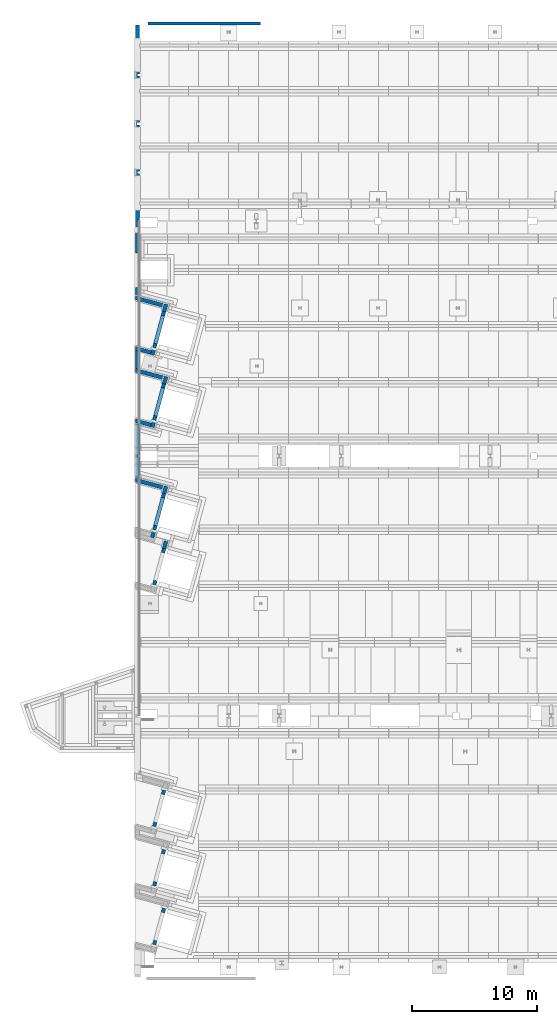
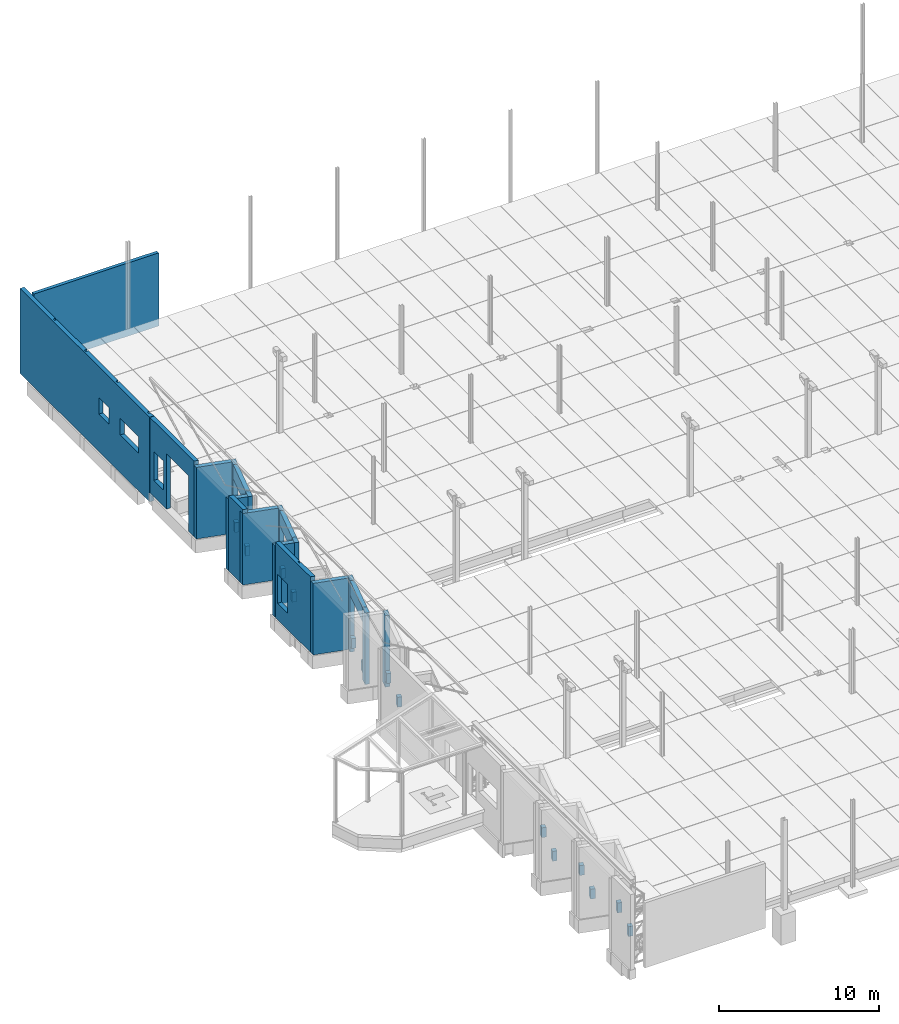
# One storey, part 55 of 59: 34 walls, 10 openings.
"""IFC2X3 building model written with IfcOpenShell, lengths in metres."""

from ifc_helpers import new_model, entity, si_unit, converted_unit, derived_unit, frame, frame_2d, origin, origin_with_axes, place, context, subcontext, project, spatial, polyline, rectangle, outline, extrude, clip, bounded_halfspace, material, layer, layer_set, layer_usage, element, save


model = new_model("IFC2X3")

# Units and contexts
model_context = context("Model", 3, precision=1e-05, world=origin())
body_context = subcontext(model_context, "Body", "Model", "MODEL_VIEW")
ifc_project = project(units=[si_unit("LENGTHUNIT", "METRE"), si_unit("AREAUNIT", "SQUARE_METRE"), si_unit("VOLUMEUNIT", "CUBIC_METRE"), si_unit("MASSUNIT", "GRAM", prefix="KILO"), converted_unit("PLANEANGLEUNIT", "DEGREE", entity("IfcPlaneAngleMeasure", 0.0174532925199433), si_unit("PLANEANGLEUNIT", "RADIAN"), dimensions=[0, 0, 0, 0, 0, 0, 0]), derived_unit("THERMALTRANSMITTANCEUNIT", [(si_unit("POWERUNIT", "WATT"), 1), (si_unit("THERMODYNAMICTEMPERATUREUNIT", "KELVIN"), -1), (si_unit("LENGTHUNIT", "METRE"), -2)]), derived_unit("VOLUMETRICFLOWRATEUNIT", [(si_unit("LENGTHUNIT", "METRE"), 3), (converted_unit("TIMEUNIT", "hour", entity("IfcTimeMeasure", 3600.0), si_unit("TIMEUNIT", "SECOND"), dimensions=[0, 0, 1, 0, 0, 0, 0]), -1), (si_unit("LENGTHUNIT", "METRE"), -1)])], contexts=[model_context])

# Site, building, storey
site_placement = place(None, origin())
site = spatial("IfcSite", under=ifc_project, at=site_placement, Name="TWP_Speiseverteilzentrum SBW VZ II", CompositionType="ELEMENT")
building_placement = place(site_placement, origin())
building = spatial("IfcBuilding", under=site, at=building_placement, Name="Speiseverteilzentrum SBW VZ II", CompositionType="ELEMENT")
storey_placement = place(building_placement, frame((0.0, 0.0, 1.7307)))
storey = spatial("IfcBuildingStorey", under=building, at=storey_placement, Name="EG_Produktion_FFB", CompositionType="ELEMENT", Elevation=1.7307)

# Walls
ifc_material_1 = material(Name="Stahlbeton")
ifc_layer_1 = layer(ifc_material_1, 0.299999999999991)
ifc_layer_set_1 = layer_set([ifc_layer_1], Name="HA_WAN_STB_0,300_xxx")
ifc_layer_usage_1 = layer_usage(ifc_layer_set_1, "AXIS2", "POSITIVE", 0.0)
wall_1_placement = place(storey_placement, frame((10.7877086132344, 12.8543333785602, -0.75), z_axis=(0.0, 0.0, 1.0), x_axis=(-0.261013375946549, -0.965335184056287, 0.0)))
element("IfcWallStandardCase", 1, at=wall_1_placement, inside=storey, material=ifc_layer_usage_1, Name="Stb.-Rahmen", context=body_context, shape_type="SweptSolid", body=[
    extrude(rectangle(XDim=0.340000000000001, YDim=0.299999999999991, at=frame_2d((0.170000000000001, 0.149999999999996), x_axis=(1.0, 0.0))), origin_with_axes(), (0.0, 0.0, 1.0), 0.75),
])
ifc_material_2 = material(Name="Stahlbeton")
ifc_layer_2 = layer(ifc_material_2, 0.299999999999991)
ifc_layer_set_2 = layer_set([ifc_layer_2], Name="HA_WAN_STB_0,300_xxx")
ifc_layer_usage_2 = layer_usage(ifc_layer_set_2, "AXIS2", "POSITIVE", 0.0)
wall_2_placement = place(storey_placement, frame((11.4818206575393, 15.4214461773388, -0.75), z_axis=(0.0, 0.0, 1.0), x_axis=(-0.261013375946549, -0.965335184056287, 0.0)))
element("IfcWallStandardCase", 2, at=wall_2_placement, inside=storey, material=ifc_layer_usage_2, Name="Stb.-Rahmen", context=body_context, shape_type="SweptSolid", body=[
    extrude(rectangle(XDim=0.340000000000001, YDim=0.299999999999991, at=frame_2d((0.170000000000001, 0.149999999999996), x_axis=(1.0, 0.0))), origin_with_axes(), (0.0, 0.0, 1.0), 0.75),
])
ifc_material_3 = material(Name="Stahlbeton")
ifc_layer_3 = layer(ifc_material_3, 0.299999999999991)
ifc_layer_set_3 = layer_set([ifc_layer_3], Name="HA_WAN_STB_0,300_xxx")
ifc_layer_usage_3 = layer_usage(ifc_layer_set_3, "AXIS2", "POSITIVE", 0.0)
wall_3_placement = place(storey_placement, frame((10.7877086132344, 17.5568974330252, -0.75), z_axis=(0.0, 0.0, 1.0), x_axis=(-0.261013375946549, -0.965335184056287, 0.0)))
element("IfcWallStandardCase", 3, at=wall_3_placement, inside=storey, material=ifc_layer_usage_3, Name="Stb.-Rahmen", context=body_context, shape_type="SweptSolid", body=[
    extrude(rectangle(XDim=0.340000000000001, YDim=0.299999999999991, at=frame_2d((0.170000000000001, 0.149999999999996), x_axis=(1.0, 0.0))), origin_with_axes(), (0.0, 0.0, 1.0), 0.75),
])
ifc_material_4 = material(Name="Stahlbeton")
ifc_layer_4 = layer(ifc_material_4, 0.299999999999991)
ifc_layer_set_4 = layer_set([ifc_layer_4], Name="HA_WAN_STB_0,300_xxx")
ifc_layer_usage_4 = layer_usage(ifc_layer_set_4, "AXIS2", "POSITIVE", 0.0)
wall_4_placement = place(storey_placement, frame((11.4818206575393, 20.1240102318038, -0.75), z_axis=(0.0, 0.0, 1.0), x_axis=(-0.261013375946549, -0.965335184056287, 0.0)))
element("IfcWallStandardCase", 4, at=wall_4_placement, inside=storey, material=ifc_layer_usage_4, Name="Stb.-Rahmen", context=body_context, shape_type="SweptSolid", body=[
    extrude(rectangle(XDim=0.340000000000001, YDim=0.299999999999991, at=frame_2d((0.170000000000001, 0.149999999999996), x_axis=(1.0, 0.0))), origin_with_axes(), (0.0, 0.0, 1.0), 0.75),
])
ifc_material_5 = material(Name="Stahlbeton")
ifc_layer_5 = layer(ifc_material_5, 0.299999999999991)
ifc_layer_set_5 = layer_set([ifc_layer_5], Name="HA_WAN_STB_0,300_xxx")
ifc_layer_usage_5 = layer_usage(ifc_layer_set_5, "AXIS2", "POSITIVE", 0.0)
wall_5_placement = place(storey_placement, frame((10.7877086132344, 22.3084320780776, -0.75), z_axis=(0.0, 0.0, 1.0), x_axis=(-0.261013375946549, -0.965335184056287, 0.0)))
element("IfcWallStandardCase", 5, at=wall_5_placement, inside=storey, material=ifc_layer_usage_5, Name="Stb.-Rahmen", context=body_context, shape_type="SweptSolid", body=[
    extrude(rectangle(XDim=0.340000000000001, YDim=0.299999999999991, at=frame_2d((0.170000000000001, 0.149999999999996), x_axis=(1.0, 0.0))), origin_with_axes(), (0.0, 0.0, 1.0), 0.75),
])
ifc_material_6 = material(Name="Stahlbeton")
ifc_layer_6 = layer(ifc_material_6, 0.299999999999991)
ifc_layer_set_6 = layer_set([ifc_layer_6], Name="HA_WAN_STB_0,300_xxx")
ifc_layer_usage_6 = layer_usage(ifc_layer_set_6, "AXIS2", "POSITIVE", 0.0)
wall_6_placement = place(storey_placement, frame((11.4818206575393, 24.8755448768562, -0.75), z_axis=(0.0, 0.0, 1.0), x_axis=(-0.261013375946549, -0.965335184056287, 0.0)))
element("IfcWallStandardCase", 6, at=wall_6_placement, inside=storey, material=ifc_layer_usage_6, Name="Stb.-Rahmen", context=body_context, shape_type="SweptSolid", body=[
    extrude(rectangle(XDim=0.340000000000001, YDim=0.299999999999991, at=frame_2d((0.170000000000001, 0.149999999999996), x_axis=(1.0, 0.0))), origin_with_axes(), (0.0, 0.0, 1.0), 0.75),
])
ifc_material_7 = material(Name="Stahlbeton")
ifc_layer_7 = layer(ifc_material_7, 0.299999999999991)
ifc_layer_set_7 = layer_set([ifc_layer_7], Name="HA_WAN_STB_0,300_xxx")
ifc_layer_usage_7 = layer_usage(ifc_layer_set_7, "AXIS2", "POSITIVE", 0.0)
wall_7_placement = place(storey_placement, frame((10.7877086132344, 41.6657514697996, -0.75), z_axis=(0.0, 0.0, 1.0), x_axis=(-0.261013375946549, -0.965335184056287, 0.0)))
element("IfcWallStandardCase", 7, at=wall_7_placement, inside=storey, material=ifc_layer_usage_7, Name="Stb.-Rahmen", context=body_context, shape_type="SweptSolid", body=[
    extrude(rectangle(XDim=0.340000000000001, YDim=0.299999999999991, at=frame_2d((0.170000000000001, 0.149999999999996), x_axis=(1.0, 0.0))), origin_with_axes(), (0.0, 0.0, 1.0), 0.75),
])
ifc_material_8 = material(Name="Stahlbeton")
ifc_layer_8 = layer(ifc_material_8, 0.299999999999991)
ifc_layer_set_8 = layer_set([ifc_layer_8], Name="HA_WAN_STB_0,300_xxx")
ifc_layer_usage_8 = layer_usage(ifc_layer_set_8, "AXIS2", "POSITIVE", 0.0)
wall_8_placement = place(storey_placement, frame((11.4818206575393, 44.2328642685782, -0.75), z_axis=(0.0, 0.0, 1.0), x_axis=(-0.261013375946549, -0.965335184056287, 0.0)))
element("IfcWallStandardCase", 8, at=wall_8_placement, inside=storey, material=ifc_layer_usage_8, Name="Stb.-Rahmen", context=body_context, shape_type="SweptSolid", body=[
    extrude(rectangle(XDim=0.340000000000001, YDim=0.299999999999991, at=frame_2d((0.170000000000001, 0.149999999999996), x_axis=(1.0, 0.0))), origin_with_axes(), (0.0, 0.0, 1.0), 0.75),
])
ifc_material_9 = material(Name="Stahlbeton")
ifc_layer_9 = layer(ifc_material_9, 0.299999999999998)
ifc_layer_set_9 = layer_set([ifc_layer_9], Name="HA_WAN_STB_0,300_xxx")
ifc_layer_usage_9 = layer_usage(ifc_layer_set_9, "AXIS2", "POSITIVE", 0.0)
wall_9_placement = place(storey_placement, frame((11.6384286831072, 44.8120653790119, -1.25), z_axis=(0.0, 0.0, 1.0), x_axis=(-0.261013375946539, -0.96533518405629, 0.0)))
element("IfcWallStandardCase", 9, at=wall_9_placement, inside=storey, material=ifc_layer_usage_9, Name="Stb.-Rahmen", context=body_context, shape_type="SweptSolid", body=[
    extrude(rectangle(XDim=0.599999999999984, YDim=0.299999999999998, at=frame_2d((0.299999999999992, 0.149999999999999), x_axis=(1.0, 0.0))), origin_with_axes(), (0.0, 0.0, 1.0), 5.45),
])
ifc_material_10 = material(Name="Stahlbeton")
ifc_layer_10 = layer(ifc_material_10, 0.299999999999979)
ifc_layer_set_10 = layer_set([ifc_layer_10], Name="HA_WAN_STB_0,300_xxx")
ifc_layer_usage_10 = layer_usage(ifc_layer_set_10, "AXIS2", "POSITIVE", 0.0)
wall_10_placement = place(storey_placement, frame((10.6989640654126, 45.7378369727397, -1.25), z_axis=(0.0, 0.0, 1.0), x_axis=(-0.261013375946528, -0.965335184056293, 0.0)))
element("IfcWallStandardCase", 10, at=wall_10_placement, inside=storey, material=ifc_layer_usage_10, Name="Stb.-Rahmen", context=body_context, shape_type="SweptSolid", body=[
    extrude(rectangle(XDim=0.648467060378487, YDim=0.299999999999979, at=frame_2d((0.324233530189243, 0.149999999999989), x_axis=(1.0, 0.0))), origin_with_axes(), (0.0, 0.0, 1.0), 5.45),
])
ifc_material_11 = material(Name="Stahlbeton")
ifc_layer_11 = layer(ifc_material_11, 0.299999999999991)
ifc_layer_set_11 = layer_set([ifc_layer_11], Name="HA_WAN_STB_0,300_xxx")
ifc_layer_usage_11 = layer_usage(ifc_layer_set_11, "AXIS2", "POSITIVE", 0.0)
wall_11_placement = place(storey_placement, frame((10.7877086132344, 46.0660509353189, -0.75), z_axis=(0.0, 0.0, 1.0), x_axis=(-0.261013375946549, -0.965335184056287, 0.0)))
element("IfcWallStandardCase", 11, at=wall_11_placement, inside=storey, material=ifc_layer_usage_11, Name="Stb.-Rahmen", context=body_context, shape_type="SweptSolid", body=[
    extrude(rectangle(XDim=0.340000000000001, YDim=0.299999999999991, at=frame_2d((0.170000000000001, 0.149999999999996), x_axis=(1.0, 0.0))), origin_with_axes(), (0.0, 0.0, 1.0), 0.75),
])
ifc_material_12 = material(Name="Stahlbeton")
ifc_layer_12 = layer(ifc_material_12, 0.299999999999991)
ifc_layer_set_12 = layer_set([ifc_layer_12], Name="HA_WAN_STB_0,300_xxx")
ifc_layer_usage_12 = layer_usage(ifc_layer_set_12, "AXIS2", "POSITIVE", 0.0)
wall_12_placement = place(storey_placement, frame((11.4818206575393, 48.6331637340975, 3.12), z_axis=(0.0, 0.0, 1.0), x_axis=(-0.261013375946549, -0.965335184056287, 0.0)))
element("IfcWallStandardCase", 12, at=wall_12_placement, inside=storey, material=ifc_layer_usage_12, Name="Stb.-Rahmen", context=body_context, shape_type="SweptSolid", body=[
    extrude(rectangle(XDim=2.99929683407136, YDim=0.299999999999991, at=frame_2d((1.49964841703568, 0.149999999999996), x_axis=(1.0, 0.0))), origin_with_axes(), (0.0, 0.0, 1.0), 1.08),
])
ifc_material_13 = material(Name="Stahlbeton")
ifc_layer_13 = layer(ifc_material_13, 0.299999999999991)
ifc_layer_set_13 = layer_set([ifc_layer_13], Name="HA_WAN_STB_0,300_xxx")
ifc_layer_usage_13 = layer_usage(ifc_layer_set_13, "AXIS2", "POSITIVE", 0.0)
wall_13_placement = place(storey_placement, frame((11.4818206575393, 48.6331637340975, -0.75), z_axis=(0.0, 0.0, 1.0), x_axis=(-0.261013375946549, -0.965335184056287, 0.0)))
element("IfcWallStandardCase", 13, at=wall_13_placement, inside=storey, material=ifc_layer_usage_13, Name="Stb.-Rahmen", context=body_context, shape_type="SweptSolid", body=[
    extrude(rectangle(XDim=0.340000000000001, YDim=0.299999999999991, at=frame_2d((0.170000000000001, 0.149999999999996), x_axis=(1.0, 0.0))), origin_with_axes(), (0.0, 0.0, 1.0), 0.75),
])
ifc_material_14 = material(Name="Stahlbeton")
ifc_layer_14 = layer(ifc_material_14, 0.299999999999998)
ifc_layer_set_14 = layer_set([ifc_layer_14], Name="HA_WAN_STB_0,300_xxx")
ifc_layer_usage_14 = layer_usage(ifc_layer_set_14, "AXIS2", "POSITIVE", 0.0)
wall_14_placement = place(storey_placement, frame((11.6384286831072, 49.2123648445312, -1.25), z_axis=(0.0, 0.0, 1.0), x_axis=(-0.261013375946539, -0.96533518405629, 0.0)))
element("IfcWallStandardCase", 14, at=wall_14_placement, inside=storey, material=ifc_layer_usage_14, Name="Stb.-Rahmen", context=body_context, shape_type="SweptSolid", body=[
    extrude(rectangle(XDim=0.599999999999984, YDim=0.299999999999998, at=frame_2d((0.299999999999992, 0.149999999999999), x_axis=(1.0, 0.0))), origin_with_axes(), (0.0, 0.0, 1.0), 5.45),
])
ifc_material_15 = material(Name="Stahlbeton")
ifc_layer_15 = layer(ifc_material_15, 0.29999999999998)
ifc_layer_set_15 = layer_set([ifc_layer_15], Name="HA_WAN_STB_0,300_xxx")
ifc_layer_usage_15 = layer_usage(ifc_layer_set_15, "AXIS2", "POSITIVE", 0.0)
wall_15_placement = place(storey_placement, frame((10.6989640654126, 54.5213455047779, -1.25), z_axis=(0.0, 0.0, 1.0), x_axis=(-0.261013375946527, -0.965335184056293, 0.0)))
element("IfcWallStandardCase", 15, at=wall_15_placement, inside=storey, material=ifc_layer_usage_15, Name="Stb.-Rahmen", context=body_context, shape_type="SweptSolid", body=[
    extrude(rectangle(XDim=0.599999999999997, YDim=0.29999999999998, at=frame_2d((0.299999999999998, 0.14999999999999), x_axis=(1.0, 0.0))), origin_with_axes(), (0.0, 0.0, 1.0), 5.45),
])
ifc_material_16 = material(Name="Stahlbeton")
ifc_layer_16 = layer(ifc_material_16, 0.299999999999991)
ifc_layer_set_16 = layer_set([ifc_layer_16], Name="HA_WAN_STB_0,300_xxx")
ifc_layer_usage_16 = layer_usage(ifc_layer_set_16, "AXIS2", "POSITIVE", 0.0)
wall_16_placement = place(storey_placement, frame((10.7877086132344, 54.849559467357, -0.75), z_axis=(0.0, 0.0, 1.0), x_axis=(-0.261013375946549, -0.965335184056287, 0.0)))
element("IfcWallStandardCase", 16, at=wall_16_placement, inside=storey, material=ifc_layer_usage_16, Name="Stb.-Rahmen", context=body_context, shape_type="SweptSolid", body=[
    extrude(rectangle(XDim=0.340000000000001, YDim=0.299999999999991, at=frame_2d((0.170000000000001, 0.149999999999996), x_axis=(1.0, 0.0))), origin_with_axes(), (0.0, 0.0, 1.0), 0.75),
])
ifc_material_17 = material(Name="Stahlbeton")
ifc_layer_17 = layer(ifc_material_17, 0.299999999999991)
ifc_layer_set_17 = layer_set([ifc_layer_17], Name="HA_WAN_STB_0,300_xxx")
ifc_layer_usage_17 = layer_usage(ifc_layer_set_17, "AXIS2", "POSITIVE", 0.0)
wall_17_placement = place(storey_placement, frame((11.4818206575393, 57.4166722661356, 3.12), z_axis=(0.0, 0.0, 1.0), x_axis=(-0.261013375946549, -0.965335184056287, 0.0)))
element("IfcWallStandardCase", 17, at=wall_17_placement, inside=storey, material=ifc_layer_usage_17, Name="Stb.-Rahmen", context=body_context, shape_type="SweptSolid", body=[
    extrude(rectangle(XDim=2.99929683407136, YDim=0.299999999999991, at=frame_2d((1.49964841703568, 0.149999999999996), x_axis=(1.0, 0.0))), origin_with_axes(), (0.0, 0.0, 1.0), 1.08),
])
ifc_material_18 = material(Name="Stahlbeton")
ifc_layer_18 = layer(ifc_material_18, 0.299999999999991)
ifc_layer_set_18 = layer_set([ifc_layer_18], Name="HA_WAN_STB_0,300_xxx")
ifc_layer_usage_18 = layer_usage(ifc_layer_set_18, "AXIS2", "POSITIVE", 0.0)
wall_18_placement = place(storey_placement, frame((11.4818206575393, 57.4166722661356, -0.75), z_axis=(0.0, 0.0, 1.0), x_axis=(-0.261013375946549, -0.965335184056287, 0.0)))
element("IfcWallStandardCase", 18, at=wall_18_placement, inside=storey, material=ifc_layer_usage_18, Name="Stb.-Rahmen", context=body_context, shape_type="SweptSolid", body=[
    extrude(rectangle(XDim=0.340000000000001, YDim=0.299999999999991, at=frame_2d((0.170000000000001, 0.149999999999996), x_axis=(1.0, 0.0))), origin_with_axes(), (0.0, 0.0, 1.0), 0.75),
])
ifc_material_19 = material(Name="Stahlbeton")
ifc_layer_19 = layer(ifc_material_19, 0.299999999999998)
ifc_layer_set_19 = layer_set([ifc_layer_19], Name="HA_WAN_STB_0,300_xxx")
ifc_layer_usage_19 = layer_usage(ifc_layer_set_19, "AXIS2", "POSITIVE", 0.0)
wall_19_placement = place(storey_placement, frame((11.6384286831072, 57.9958733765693, -1.25), z_axis=(0.0, 0.0, 1.0), x_axis=(-0.261013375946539, -0.96533518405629, 0.0)))
element("IfcWallStandardCase", 19, at=wall_19_placement, inside=storey, material=ifc_layer_usage_19, Name="Stb.-Rahmen", context=body_context, shape_type="SweptSolid", body=[
    extrude(rectangle(XDim=0.599999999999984, YDim=0.299999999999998, at=frame_2d((0.299999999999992, 0.149999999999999), x_axis=(1.0, 0.0))), origin_with_axes(), (0.0, 0.0, 1.0), 5.45),
])
ifc_material_20 = material(Name="Stahlbeton")
ifc_layer_20 = layer(ifc_material_20, 0.29999999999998)
ifc_layer_set_20 = layer_set([ifc_layer_20], Name="HA_WAN_STB_0,300_xxx")
ifc_layer_usage_20 = layer_usage(ifc_layer_set_20, "AXIS2", "POSITIVE", 0.0)
wall_20_placement = place(storey_placement, frame((10.6989640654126, 60.3143324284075, -1.25), z_axis=(0.0, 0.0, 1.0), x_axis=(-0.261013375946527, -0.965335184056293, 0.0)))
element("IfcWallStandardCase", 20, at=wall_20_placement, inside=storey, material=ifc_layer_usage_20, Name="Stb.-Rahmen", context=body_context, shape_type="SweptSolid", body=[
    extrude(rectangle(XDim=0.599999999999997, YDim=0.29999999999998, at=frame_2d((0.299999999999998, 0.14999999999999), x_axis=(1.0, 0.0))), origin_with_axes(), (0.0, 0.0, 1.0), 5.45),
])
ifc_material_21 = material(Name="Stahlbeton")
ifc_layer_21 = layer(ifc_material_21, 0.299999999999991)
ifc_layer_set_21 = layer_set([ifc_layer_21], Name="HA_WAN_STB_0,300_xxx")
ifc_layer_usage_21 = layer_usage(ifc_layer_set_21, "AXIS2", "POSITIVE", 0.0)
wall_21_placement = place(storey_placement, frame((10.7877086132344, 60.6425463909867, -0.75), z_axis=(0.0, 0.0, 1.0), x_axis=(-0.261013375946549, -0.965335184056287, 0.0)))
element("IfcWallStandardCase", 21, at=wall_21_placement, inside=storey, material=ifc_layer_usage_21, Name="Stb.-Rahmen", context=body_context, shape_type="SweptSolid", body=[
    extrude(rectangle(XDim=0.340000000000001, YDim=0.299999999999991, at=frame_2d((0.170000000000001, 0.149999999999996), x_axis=(1.0, 0.0))), origin_with_axes(), (0.0, 0.0, 1.0), 0.75),
])
ifc_material_22 = material(Name="Stahlbeton")
ifc_layer_22 = layer(ifc_material_22, 0.299999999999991)
ifc_layer_set_22 = layer_set([ifc_layer_22], Name="HA_WAN_STB_0,300_xxx")
ifc_layer_usage_22 = layer_usage(ifc_layer_set_22, "AXIS2", "POSITIVE", 0.0)
wall_22_placement = place(storey_placement, frame((11.4818206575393, 63.2096591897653, 3.12), z_axis=(0.0, 0.0, 1.0), x_axis=(-0.261013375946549, -0.965335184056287, 0.0)))
element("IfcWallStandardCase", 22, at=wall_22_placement, inside=storey, material=ifc_layer_usage_22, Name="Stb.-Rahmen", context=body_context, shape_type="SweptSolid", body=[
    extrude(rectangle(XDim=2.99929683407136, YDim=0.299999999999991, at=frame_2d((1.49964841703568, 0.149999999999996), x_axis=(1.0, 0.0))), origin_with_axes(), (0.0, 0.0, 1.0), 1.08),
])
ifc_material_23 = material(Name="Stahlbeton")
ifc_layer_23 = layer(ifc_material_23, 0.299999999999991)
ifc_layer_set_23 = layer_set([ifc_layer_23], Name="HA_WAN_STB_0,300_xxx")
ifc_layer_usage_23 = layer_usage(ifc_layer_set_23, "AXIS2", "POSITIVE", 0.0)
wall_23_placement = place(storey_placement, frame((11.4818206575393, 63.2096591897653, -0.75), z_axis=(0.0, 0.0, 1.0), x_axis=(-0.261013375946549, -0.965335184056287, 0.0)))
element("IfcWallStandardCase", 23, at=wall_23_placement, inside=storey, material=ifc_layer_usage_23, Name="Stb.-Rahmen", context=body_context, shape_type="SweptSolid", body=[
    extrude(rectangle(XDim=0.340000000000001, YDim=0.299999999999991, at=frame_2d((0.170000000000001, 0.149999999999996), x_axis=(1.0, 0.0))), origin_with_axes(), (0.0, 0.0, 1.0), 0.75),
])
ifc_material_24 = material(Name="Stahlbeton")
ifc_layer_24 = layer(ifc_material_24, 0.299999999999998)
ifc_layer_set_24 = layer_set([ifc_layer_24], Name="HA_WAN_STB_0,300_xxx")
ifc_layer_usage_24 = layer_usage(ifc_layer_set_24, "AXIS2", "POSITIVE", 0.0)
wall_24_placement = place(storey_placement, frame((11.6384286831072, 63.788860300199, -1.25), z_axis=(0.0, 0.0, 1.0), x_axis=(-0.261013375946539, -0.96533518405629, 0.0)))
element("IfcWallStandardCase", 24, at=wall_24_placement, inside=storey, material=ifc_layer_usage_24, Name="Stb.-Rahmen", context=body_context, shape_type="SweptSolid", body=[
    extrude(rectangle(XDim=0.599999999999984, YDim=0.299999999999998, at=frame_2d((0.299999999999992, 0.149999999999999), x_axis=(1.0, 0.0))), origin_with_axes(), (0.0, 0.0, 1.0), 5.45),
])
ifc_material_25 = material(Name="Stahlbeton")
ifc_layer_25 = layer(ifc_material_25, 0.300000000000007)
ifc_layer_set_25 = layer_set([ifc_layer_25], Name="HA_WAN_STB_0,300_xxx")
ifc_layer_usage_25 = layer_usage(ifc_layer_set_25, "AXIS2", "POSITIVE", 0.0)
wall_25_placement = place(storey_placement, frame((11.6384286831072, 49.2123648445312, -1.25), z_axis=(0.0, 0.0, 1.0), x_axis=(-0.965335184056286, 0.261013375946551, 0.0)))
element("IfcWallStandardCase", 25, at=wall_25_placement, inside=storey, material=ifc_layer_usage_25, Name="Stb.-Rahmen", context=body_context, shape_type="SweptSolid", body=[
    extrude(outline(polyline([(-2.1431644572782, -0.879482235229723), (0.237799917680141, -0.879482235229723), (0.156684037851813, -0.579482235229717), (-2.1431644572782, -0.579482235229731), (-2.1431644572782, -0.879482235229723)])), frame((2.1431644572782, 0.879482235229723, 0.0), z_axis=(0.0, 0.0, 1.0), x_axis=(1.0, 0.0, 0.0)), (0.0, 0.0, 1.0), 5.45),
])
ifc_material_26 = material(Name="Stahlbeton")
ifc_layer_26 = layer(ifc_material_26, 0.300000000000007)
ifc_layer_set_26 = layer_set([ifc_layer_26], Name="HA_WAN_STB_0,300_xxx")
ifc_layer_usage_26 = layer_usage(ifc_layer_set_26, "AXIS2", "POSITIVE", 0.0)
wall_26_placement = place(storey_placement, frame((10.6206600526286, 54.231744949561, -1.25), z_axis=(0.0, 0.0, 1.0), x_axis=(-0.965335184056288, 0.261013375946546, 0.0)))
element("IfcWallStandardCase", 26, at=wall_26_placement, inside=storey, material=ifc_layer_usage_26, Name="Stb.-Rahmen", context=body_context, shape_type="SweptSolid", body=[
    extrude(outline(polyline([(-1.16067658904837, -0.613831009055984), (0.165971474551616, -0.613831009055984), (0.0848555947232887, -0.313831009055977), (-1.16067658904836, -0.31383100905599), (-1.16067658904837, -0.613831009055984)])), frame((1.16067658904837, 0.613831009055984, 0.0), z_axis=(0.0, 0.0, 1.0), x_axis=(1.0, 0.0, 0.0)), (0.0, 0.0, 1.0), 5.45),
])
ifc_material_27 = material(Name="Stahlbeton")
ifc_layer_27 = layer(ifc_material_27, 0.300000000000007)
ifc_layer_set_27 = layer_set([ifc_layer_27], Name="HA_WAN_STB_0,300_xxx")
ifc_layer_usage_27 = layer_usage(ifc_layer_set_27, "AXIS2", "POSITIVE", 0.0)
wall_27_placement = place(storey_placement, frame((11.6384286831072, 57.9958733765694, -1.25), z_axis=(0.0, 0.0, 1.0), x_axis=(-0.965335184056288, 0.261013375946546, 0.0)))
element("IfcWallStandardCase", 27, at=wall_27_placement, inside=storey, material=ifc_layer_usage_27, Name="Stb.-Rahmen", context=body_context, shape_type="SweptSolid", body=[
    extrude(outline(polyline([(-2.1431644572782, -0.879482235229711), (0.237799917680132, -0.87948223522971), (0.156684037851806, -0.579482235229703), (-2.1431644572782, -0.579482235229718), (-2.1431644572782, -0.879482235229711)])), frame((2.1431644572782, 0.879482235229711, 0.0), z_axis=(0.0, 0.0, 1.0), x_axis=(1.0, 0.0, 0.0)), (0.0, 0.0, 1.0), 5.45),
])
ifc_material_28 = material(Name="Stahlbeton")
ifc_layer_28 = layer(ifc_material_28, 0.300000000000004)
ifc_layer_set_28 = layer_set([ifc_layer_28], Name="HA_WAN_STB_0,300_xxx")
ifc_layer_usage_28 = layer_usage(ifc_layer_set_28, "AXIS2", "POSITIVE", 0.0)
wall_28_placement = place(storey_placement, frame((9.33999999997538, 60.0602318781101, -1.25), z_axis=(0.0, 0.0, 1.0), x_axis=(0.0, -1.0, 0.0)))
element("IfcWallStandardCase", 28, at=wall_28_placement, inside=storey, material=ifc_layer_usage_28, Name="Stb.-Rahmen", context=body_context, shape_type="Clipping", body=[
    clip(extrude(outline(polyline([(-1.83478371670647, 0.0), (-0.0811158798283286, 0.0), (0.0, 0.300000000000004), (-1.75366783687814, 0.300000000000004), (-1.83478371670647, 0.0)])), frame((1.83478371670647, 0.0, 0.0), z_axis=(0.0, 0.0, 1.0), x_axis=(1.0, 0.0, 0.0)), (0.0, 0.0, 1.0), 5.75), bounded_halfspace(frame((1.63883933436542, 0.150000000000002, 5.45), z_axis=(0.0, 0.0, 1.0), x_axis=(-0.261013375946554, -0.965335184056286, 0.0)), True, origin_with_axes(), polyline([(1.52401083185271, 0.300000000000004), (1.44289495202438, 0.0), (1.75366783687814, 0.0), (1.83478371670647, 0.300000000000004), (1.52401083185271, 0.300000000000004)]))),
])
ifc_material_29 = material(Name="Stahlbeton")
ifc_layer_29 = layer(ifc_material_29, 0.300000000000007)
ifc_layer_set_29 = layer_set([ifc_layer_29], Name="HA_WAN_STB_0,300_xxx")
ifc_layer_usage_29 = layer_usage(ifc_layer_set_29, "AXIS2", "POSITIVE", 0.0)
wall_29_placement = place(storey_placement, frame((10.6206600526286, 60.0247318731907, -1.25), z_axis=(0.0, 0.0, 1.0), x_axis=(-0.965335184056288, 0.261013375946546, 0.0)))
element("IfcWallStandardCase", 29, at=wall_29_placement, inside=storey, material=ifc_layer_usage_29, Name="Stb.-Rahmen", context=body_context, shape_type="SweptSolid", body=[
    extrude(outline(polyline([(-1.16067658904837, -0.613831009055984), (0.165971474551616, -0.613831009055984), (0.0848555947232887, -0.313831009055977), (-1.16067658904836, -0.31383100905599), (-1.16067658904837, -0.613831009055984)])), frame((1.16067658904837, 0.613831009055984, 0.0), z_axis=(0.0, 0.0, 1.0), x_axis=(1.0, 0.0, 0.0)), (0.0, 0.0, 1.0), 5.45),
])
ifc_material_30 = material(Name="Stahlbeton")
ifc_layer_30 = layer(ifc_material_30, 0.300000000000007)
ifc_layer_set_30 = layer_set([ifc_layer_30], Name="HA_WAN_STB_0,300_xxx")
ifc_layer_usage_30 = layer_usage(ifc_layer_set_30, "AXIS2", "POSITIVE", 0.0)
wall_30_placement = place(storey_placement, frame((11.6384286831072, 63.788860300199, -1.25), z_axis=(0.0, 0.0, 1.0), x_axis=(-0.965335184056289, 0.261013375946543, 0.0)))
element("IfcWallStandardCase", 30, at=wall_30_placement, inside=storey, material=ifc_layer_usage_30, Name="Stb.-Rahmen", context=body_context, shape_type="SweptSolid", body=[
    extrude(outline(polyline([(-2.1431644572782, -0.879482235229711), (0.23779991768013, -0.879482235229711), (0.156684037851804, -0.579482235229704), (-2.1431644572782, -0.579482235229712), (-2.1431644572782, -0.879482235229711)])), frame((2.1431644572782, 0.879482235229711, 0.0), z_axis=(0.0, 0.0, 1.0), x_axis=(1.0, 0.0, 0.0)), (0.0, 0.0, 1.0), 5.45),
])

# Wall, openings
ifc_material_31 = material(Name="Stahlbeton")
ifc_layer_31 = layer(ifc_material_31, 0.300000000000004)
ifc_layer_set_31 = layer_set([ifc_layer_31], Name="HA_WAN_STB_0,300_xxx")
ifc_layer_usage_31 = layer_usage(ifc_layer_set_31, "AXIS2", "POSITIVE", 0.0)
wall_31_placement = place(storey_placement, frame((9.33999999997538, 54.236167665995, -1.25), z_axis=(0.0, 0.0, 1.0), x_axis=(-4.16124544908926e-16, -1.0, 0.0)))
wall_31 = element("IfcWallStandardCase", 31, at=wall_31_placement, inside=storey, material=ifc_layer_usage_31, Name="Stb.-Außenwand", context=body_context, shape_type="SweptSolid", body=[
    extrude(outline(polyline([(-4.45237786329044, 0.0), (-0.0811158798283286, 0.0), (0.0, 0.300000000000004), (-4.37126198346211, 0.300000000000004), (-4.45237786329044, 0.0)])), frame((4.45237786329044, 0.0, 0.0), z_axis=(0.0, 0.0, 1.0), x_axis=(1.0, 0.0, 0.0)), (0.0, 0.0, 1.0), 5.75),
])
opening_1_placement = place(wall_31_placement, frame((2.71641501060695, 0.300000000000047, 0.0), z_axis=(0.0, -1.0, 0.0), x_axis=(0.0, 0.0, 1.0)))
element("IfcOpeningElement", 32, at=opening_1_placement, cuts=wall_31, Name="Wandnische", ObjectType="SOLIDWALL", context=body_context, shape_type="SweptSolid", body=[
    extrude(outline(polyline([(5.75, 0.165), (5.75, 0.0), (0.0, 0.0), (0.0, 0.165), (5.75, 0.165)])), origin_with_axes(), (0.0, 0.0, 1.0), 0.16),
])
opening_2_placement = place(wall_31_placement, frame((1.50116766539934, 0.300000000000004, 1.25), z_axis=(7.57912251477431e-16, -1.0, 0.0), x_axis=(0.0, 0.0, 1.0)))
element("IfcOpeningElement", 33, at=opening_2_placement, cuts=wall_31, Name="HA_TÜR_DRE", ObjectType="SOLIDWALL", context=body_context, shape_type="SweptSolid", body=[
    extrude(outline(polyline([(2.21, 1.2200296), (2.21, 0.0), (0.0, 0.0), (0.0, 1.2200296), (2.21, 1.2200296)])), origin_with_axes(), (0.0, 0.0, 1.0), 0.300000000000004),
])

ifc_material_32 = material(Name="Stahlbeton")
ifc_layer_32 = layer(ifc_material_32, 0.300000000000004)
ifc_layer_set_32 = layer_set([ifc_layer_32], Name="HA_WAN_STB_0,300_xxx")
ifc_layer_usage_32 = layer_usage(ifc_layer_set_32, "AXIS2", "POSITIVE", 0.0)
wall_32_placement = place(storey_placement, frame((9.33999999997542, 86.1114562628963, -1.9677), z_axis=(0.0, 0.0, 1.0), x_axis=(-1.79860301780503e-15, -1.0, 0.0)))
wall_32 = element("IfcWallStandardCase", 34, at=wall_32_placement, inside=storey, material=ifc_layer_usage_32, Name="Stb.-Außenwand", context=body_context, shape_type="SweptSolid", body=[
    extrude(rectangle(XDim=16.1813530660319, YDim=0.300000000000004, at=frame_2d((8.09067653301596, 0.150000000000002), x_axis=(1.0, 0.0))), origin_with_axes(), (0.0, 0.0, 1.0), 6.4677),
])
opening_3_placement = place(wall_32_placement, frame((14.7623526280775, 0.30000000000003, 2.8677), z_axis=(0.0, -1.0, 0.0), x_axis=(0.0, 0.0, 1.0)))
element("IfcOpeningElement", 35, at=opening_3_placement, cuts=wall_32, Name="HA_FEN", ObjectType="SOLIDWALL", context=body_context, shape_type="SweptSolid", body=[
    extrude(outline(polyline([(1.26, 2.2605125), (1.26, 0.0), (0.0, 0.0), (0.0, 2.2605125), (1.26, 2.2605125)])), origin_with_axes(), (0.0, 0.0, 1.0), 0.300000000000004),
])
opening_4_placement = place(wall_32_placement, frame((11.1218268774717, 0.300000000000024, 2.8677), z_axis=(0.0, -1.0, 0.0), x_axis=(0.0, 0.0, 1.0)))
element("IfcOpeningElement", 36, at=opening_4_placement, cuts=wall_32, Name="HA_FEN", ObjectType="SOLIDWALL", context=body_context, shape_type="SweptSolid", body=[
    extrude(outline(polyline([(1.26, 1.26148450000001), (1.26, 0.0), (0.0, 0.0), (0.0, 1.26148450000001), (1.26, 1.26148450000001)])), origin_with_axes(), (0.0, 0.0, 1.0), 0.300000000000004),
])
opening_5_placement = place(wall_32_placement, frame((15.7917036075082, 0.300000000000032, 0.0), z_axis=(0.0, -1.0, 0.0), x_axis=(0.0, 0.0, 1.0)))
element("IfcOpeningElement", 37, at=opening_5_placement, cuts=wall_32, Name="Wandnische", ObjectType="SOLIDWALL", context=body_context, shape_type="SweptSolid", body=[
    extrude(outline(polyline([(6.4677, 0.165), (6.4677, 0.0), (0.0, 0.0), (0.0, 0.165), (6.4677, 0.165)])), origin_with_axes(), (0.0, 0.0, 1.0), 0.159999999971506),
])
opening_6_placement = place(wall_32_placement, frame((11.8917036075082, 0.300000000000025, 0.0), z_axis=(0.0, -1.0, 0.0), x_axis=(0.0, 0.0, 1.0)))
element("IfcOpeningElement", 38, at=opening_6_placement, cuts=wall_32, Name="Wandnische", ObjectType="SOLIDWALL", context=body_context, shape_type="SweptSolid", body=[
    extrude(outline(polyline([(6.4677, 0.165), (6.4677, 0.0), (0.0, 0.0), (0.0, 0.165), (6.4677, 0.165)])), origin_with_axes(), (0.0, 0.0, 1.0), 0.16),
])
opening_7_placement = place(wall_32_placement, frame((7.993956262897, 0.300000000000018, 0.0), z_axis=(5.3499688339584e-15, -1.0, 0.0), x_axis=(0.0, 0.0, 1.0)))
element("IfcOpeningElement", 39, at=opening_7_placement, cuts=wall_32, Name="Wandnische", ObjectType="SOLIDWALL", context=body_context, shape_type="SweptSolid", body=[
    extrude(outline(polyline([(6.4677, 0.165), (6.4677, 0.0), (0.0, 0.0), (0.0, 0.165), (6.4677, 0.165)])), origin_with_axes(), (0.0, 0.0, 1.0), 0.17),
])
opening_8_placement = place(wall_32_placement, frame((4.0917036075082, 0.300000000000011, 0.0), z_axis=(0.0, -1.0, 0.0), x_axis=(0.0, 0.0, 1.0)))
element("IfcOpeningElement", 40, at=opening_8_placement, cuts=wall_32, Name="Wandnische", ObjectType="SOLIDWALL", context=body_context, shape_type="SweptSolid", body=[
    extrude(outline(polyline([(6.4677, 0.165), (6.4677, 0.0), (0.0, 0.0), (0.0, 0.165), (6.4677, 0.165)])), origin_with_axes(), (0.0, 0.0, 1.0), 0.16),
])

ifc_material_33 = material(Name="Stahlbeton")
ifc_layer_33 = layer(ifc_material_33, 0.300000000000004)
ifc_layer_set_33 = layer_set([ifc_layer_33], Name="HA_WAN_STB_0,300_xxx")
ifc_layer_usage_33 = layer_usage(ifc_layer_set_33, "AXIS2", "POSITIVE", 0.0)
wall_33_placement = place(storey_placement, frame((9.33999999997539, 69.9001031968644, -1.25), z_axis=(0.0, 0.0, 1.0), x_axis=(-1.98804646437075e-15, -1.0, 0.0)))
wall_33 = element("IfcWallStandardCase", 41, at=wall_33_placement, inside=storey, material=ifc_layer_usage_33, Name="Stb.-Rahmen", context=body_context, shape_type="SweptSolid", body=[
    extrude(outline(polyline([(-5.57089522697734, 0.0), (-0.0811158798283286, 0.0), (0.0, 0.300000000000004), (-5.57089522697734, 0.300000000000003), (-5.57089522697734, 0.0)])), frame((5.57089522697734, 0.0, 0.0), z_axis=(0.0, 0.0, 1.0), x_axis=(1.0, 0.0, 0.0)), (0.0, 0.0, 1.0), 5.75),
])
opening_9_placement = place(wall_33_placement, frame((1.72, 0.300000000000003, 1.25), z_axis=(2.27373675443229e-15, -1.0, 0.0), x_axis=(0.0, 0.0, 1.0)))
element("IfcOpeningElement", 42, at=opening_9_placement, cuts=wall_33, Name="HA_TÜR_DRE", ObjectType="SOLIDWALL", context=body_context, shape_type="SweptSolid", body=[
    extrude(outline(polyline([(2.21, 1.22), (2.21, 0.0), (0.0, 0.0), (0.0, 1.22), (2.21, 1.22)])), origin_with_axes(), (0.0, 0.0, 1.0), 0.300000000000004),
])
opening_10_placement = place(wall_33_placement, frame((4.80380711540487, 0.300000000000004, 0.0), z_axis=(3.03164900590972e-15, -1.0, 0.0), x_axis=(0.0, 0.0, 1.0)))
element("IfcOpeningElement", 43, at=opening_10_placement, cuts=wall_33, Name="HA_TÜR_DRE", ObjectType="SOLIDWALL", context=body_context, shape_type="SweptSolid", body=[
    extrude(outline(polyline([(4.22, 2.74), (4.22, 0.0), (0.0, 0.0), (0.0, 2.74), (4.22, 2.74)])), origin_with_axes(), (0.0, 0.0, 1.0), 0.300000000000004),
])

# Wall
ifc_material_34 = material(Name="KS-XL-16-1.8/DM")
ifc_layer_34 = layer(ifc_material_34, 0.24)
ifc_layer_set_34 = layer_set([ifc_layer_34], Name="HA_WAN_MWK_0,240_xxx")
ifc_layer_usage_34 = layer_usage(ifc_layer_set_34, "AXIS2", "POSITIVE", -0.24)
wall_34_placement = place(storey_placement, frame((10.3418574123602, 86.111000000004, -1.8673)))
element("IfcWallStandardCase", 44, at=wall_34_placement, inside=storey, material=ifc_layer_usage_34, Name="Mauerwerkswand", context=body_context, shape_type="SweptSolid", body=[
    extrude(rectangle(XDim=8.99999999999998, YDim=0.24, at=frame_2d((4.49999999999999, 0.12), x_axis=(1.0, 0.0))), origin_with_axes(), (0.0, 0.0, 1.0), 5.5761),
])

save(model, "model.ifc")
